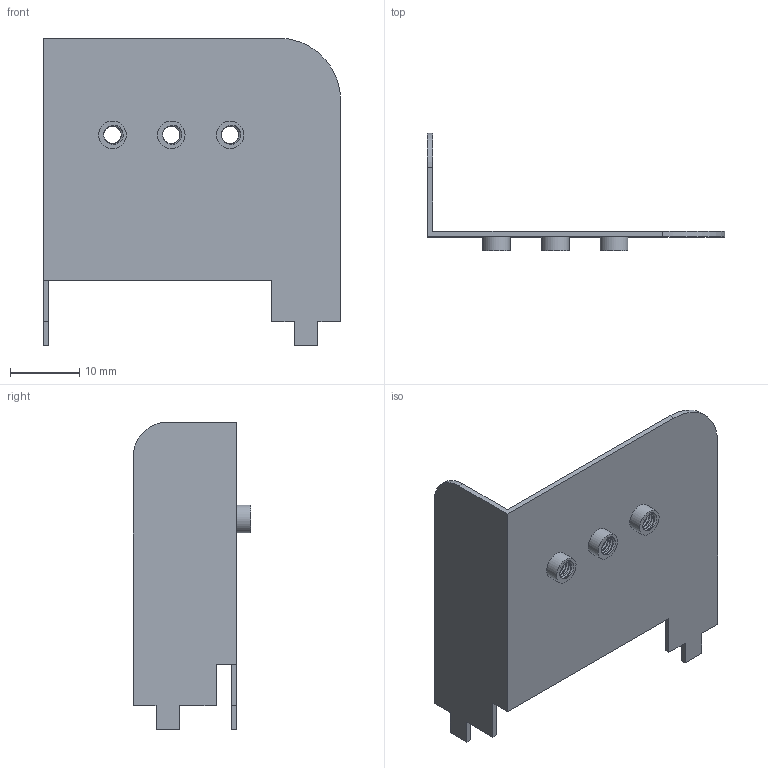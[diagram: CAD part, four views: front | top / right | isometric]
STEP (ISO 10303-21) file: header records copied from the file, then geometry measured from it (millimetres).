
FILE_DESCRIPTION(/* description */ ('','CAx-IF Rec.Pracs.---Representation and Presentation of Product Manufacturing Information (PMI)---4.0---2014-10-13'),/* implementation_level */ '2;1');
FILE_NAME(/* name */ 'TypeE-1-0.8.step',/* time_stamp */ '2025-01-27T02:28:55+09:00',/* author */ (''),/* organization */ (''),/* preprocessor_version */ 'ST-DEVELOPER v20',/* originating_system */ 'Autodesk Translation Framework v13.20.0.188',/* authorisation */ '');
FILE_SCHEMA (('AP242_MANAGED_MODEL_BASED_3D_ENGINEERING_MIM_LF { 1 0 10303 442 1 1 4 }'));
Length unit declared in the file: millimetre
Products named in the file (1): (未保存)
Bounding box: 43 x 17 x 44.5 mm (x, y, z)
Volume: 1733.1 mm3; surface area: 4603.1 mm2
Topology: 1 solids, 1 shells, 73 faces, 204 edges, 136 vertices
Faces by surface type: cylinder 44, plane 23, bspline 6
Full cylindrical faces by diameter (mm): 2.529 x6, 3.086 x3, 4 x3
Entity records: 5173 total; most frequent: CARTESIAN_POINT 3420, ORIENTED_EDGE 408, DIRECTION 272, EDGE_CURVE 204, VERTEX_POINT 136, LINE 92, VECTOR 92, B_SPLINE_CURVE_WITH_KNOTS 90
